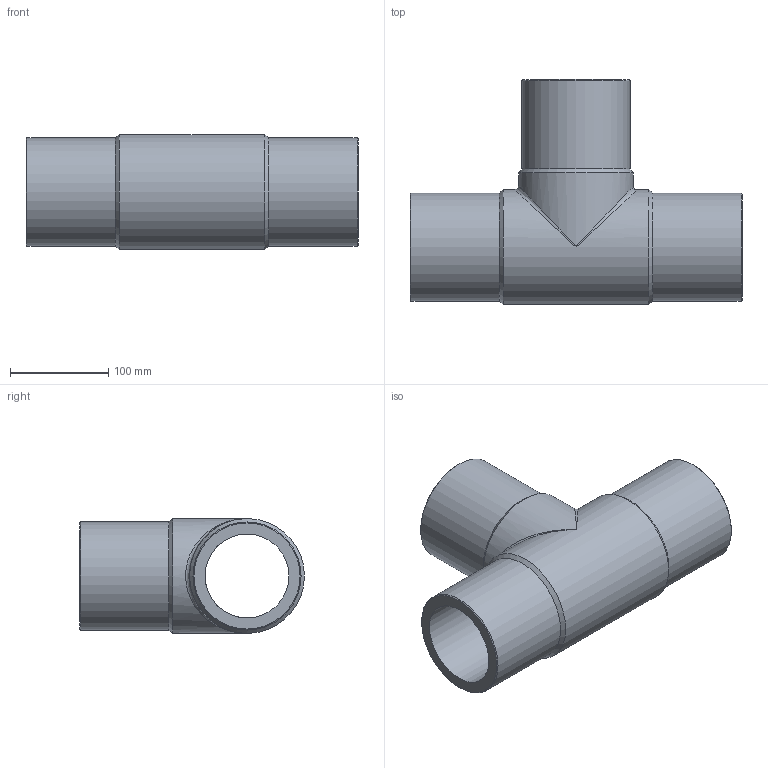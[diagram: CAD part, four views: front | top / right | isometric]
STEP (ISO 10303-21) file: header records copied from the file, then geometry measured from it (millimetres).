
FILE_DESCRIPTION(/* description */ ('Unknown'),/* implementation_level */ '2;1');
FILE_NAME(/* name */ 'TP110G',/* time_stamp */ '2021-08-13T09:37:58+02:00',/* author */ ('Unknown'),/* organization */ ('Unknown'),/* preprocessor_version */ 'ST-DEVELOPER v16.7',/* originating_system */ 'Solid Edge',/* authorisation */ 'Unknown');
FILE_SCHEMA (('AUTOMOTIVE_DESIGN {1 0 10303 214 3 1 1}'));
Length unit declared in the file: millimetre
Products named in the file (1): TP110G
Bounding box: 338 x 229 x 117 mm (x, y, z)
Volume: 1879803.1 mm3; surface area: 287112.7 mm2
Topology: 1 solids, 1 shells, 18 faces, 44 edges, 23 vertices
Faces by surface type: cylinder 7, cone 6, plane 3, bspline 2
Full cylindrical faces by diameter (mm): 85.4 x2, 110 x3, 117 x2
Entity records: 516 total; most frequent: CARTESIAN_POINT 159, DIRECTION 76, ORIENTED_EDGE 42, AXIS2_PLACEMENT_3D 38, EDGE_LOOP 36, FACE_BOUND 36, EDGE_CURVE 21, VERTEX_POINT 19
